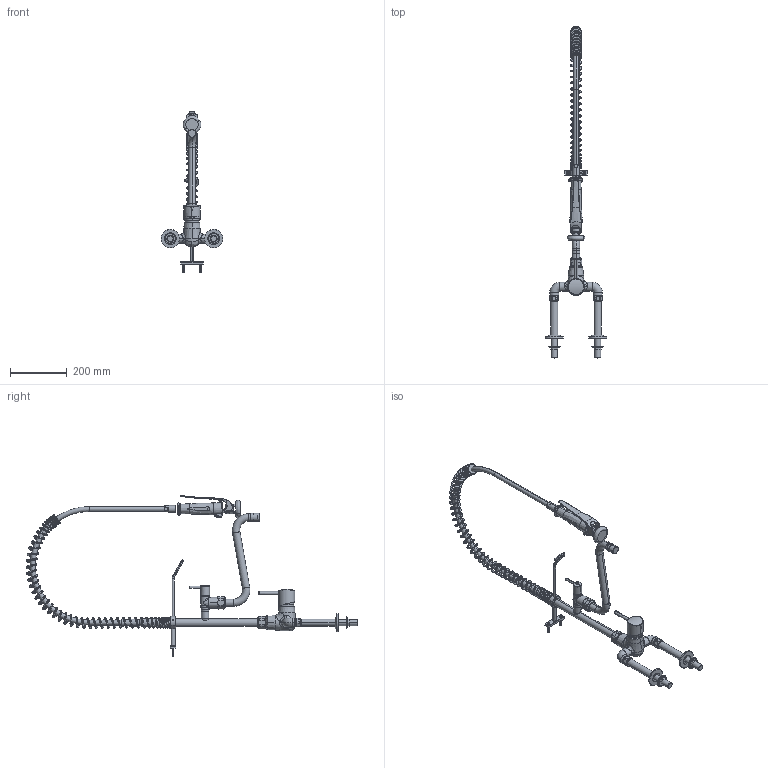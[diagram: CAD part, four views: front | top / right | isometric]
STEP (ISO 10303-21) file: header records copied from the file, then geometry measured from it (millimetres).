
FILE_DESCRIPTION((''),'2;1');
FILE_NAME('506359_SW0001','2024-10-08T14:52:08',('BS983'),(''),'CREO PARAMETRIC BY PTC INC, 2024133','CREO PARAMETRIC BY PTC INC, 2024133','');
FILE_SCHEMA(('CONFIG_CONTROL_DESIGN'));
Products named in the file (1): 506359_SW0001
Bounding box: 218 x 1167.55 x 565.95 mm (x, y, z)
Surface area: 431681.2 mm2 (no closed solid volume)
Topology: 0 solids, 110 shells, 680 faces, 2077 edges, 1443 vertices
Faces by surface type: cylinder 206, bspline 158, plane 120, torus 108, cone 67, sphere 13, revolution 6, extrusion 2
Entity records: 53080 total; most frequent: CARTESIAN_POINT 36788, ORIENTED_EDGE 3208, DIRECTION 3015, EDGE_CURVE 2072, VERTEX_POINT 1443, AXIS2_PLACEMENT_3D 1255, B_SPLINE_CURVE_WITH_KNOTS 842, CIRCLE 741
